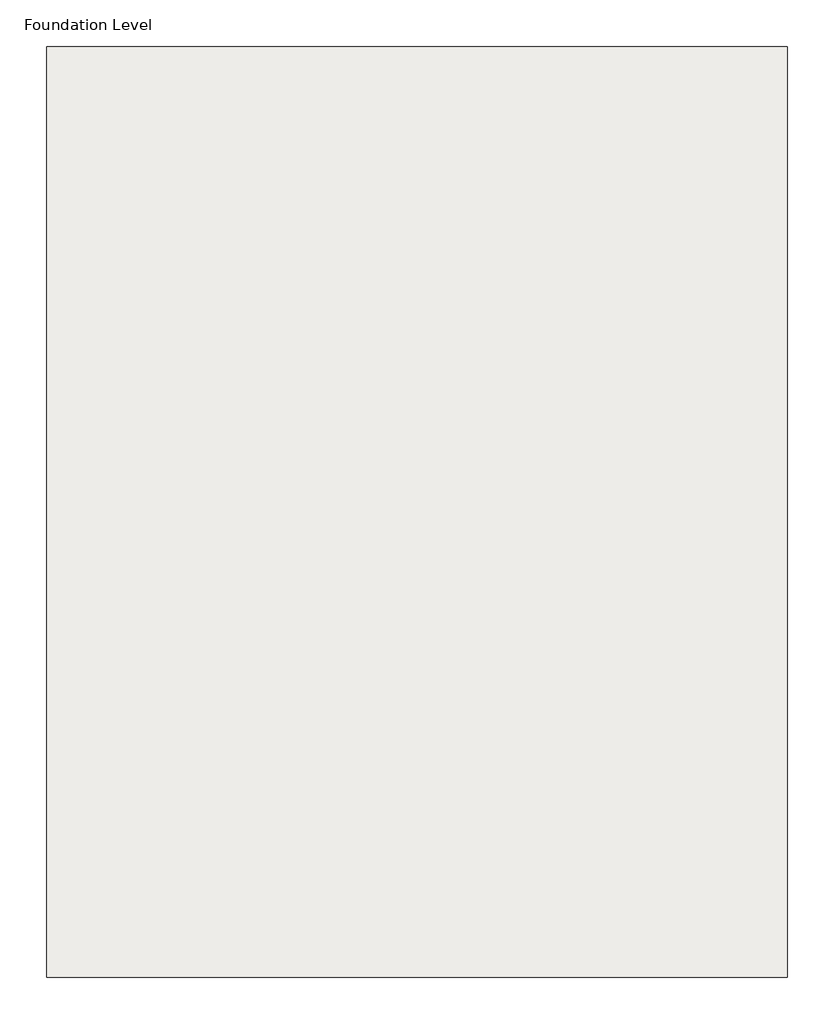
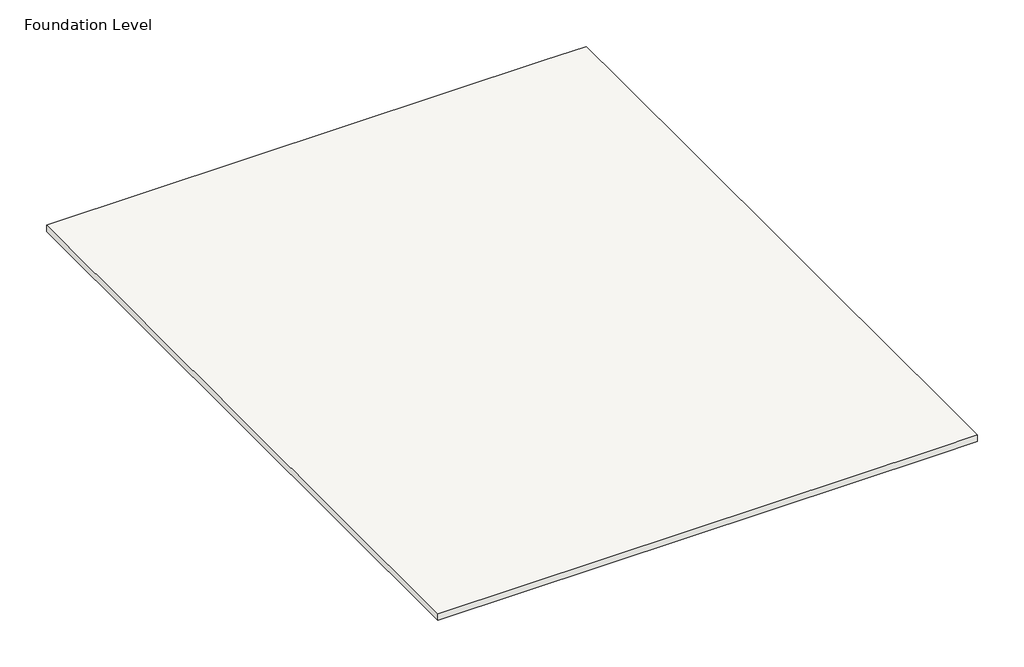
# One storey: 1 slab.
"""IFC4 building model written with IfcOpenShell, lengths in millimetres."""

from ifc_helpers import new_model, si_unit, origin, place, context, project, spatial, faceted_brep, element, save

model = new_model("IFC4")

# Units and contexts
model_context = context("Model", 3, world=origin())
ifc_project = project(units=[si_unit("LENGTHUNIT", "METRE", prefix="MILLI")], contexts=[model_context])

# Site, building, storey
site = spatial("IfcSite", under=ifc_project)
building = spatial("IfcBuilding", under=site)
storey = spatial("IfcBuildingStorey", under=building, Name="Foundation Level", Elevation=-1829.0)

# Slab
placement = place(None, origin())
element("IfcSlab", 1, ObjectType="150mm Foundation Slab", at=placement, inside=storey, context=model_context, shape_type="Brep", body=[
    faceted_brep([(-10208.9035319, 4562.1636035, -1979.0), (-10208.9035319, 3362.1636035, -1979.0), (-10208.9035319, -2762.8363965, -1979.0), (-10208.9035319, -4562.8363965, -1979.0), (-10208.9035319, -8858.8363965, -1979.0), (-10208.9035319, -10058.8363965, -1979.0), (-11108.9035319, -10058.8363965, -1979.0), (-21844.300634, -10058.8363965, -1979.0), (-21844.300634, 4562.1636035, -1979.0), (-11108.9035319, 4562.1636035, -1979.0), (-10208.9035319, 4562.1636035, -1829.0), (-11108.9035319, 4562.1636035, -1829.0), (-21844.300634, 4562.1636035, -1829.0), (-21844.300634, -10058.8363965, -1829.0), (-11108.9035319, -10058.8363965, -1829.0), (-10208.9035319, -10058.8363965, -1829.0), (-10208.9035319, -8858.8363965, -1829.0), (-10208.9035319, -4562.8363965, -1829.0), (-10208.9035319, -2762.8363965, -1829.0), (-10208.9035319, 3362.1636035, -1829.0)], [[[0, 1, 2, 3, 4, 5, 6, 7, 8, 9]], [[10, 11, 12, 13, 14, 15, 16, 17, 18, 19]], [[5, 4, 3, 2, 1, 0, 10, 19, 18, 17, 16, 15]], [[7, 6, 5, 15, 14, 13]], [[8, 7, 13, 12]], [[0, 9, 8, 12, 11, 10]]]),
])

save(model, "model.ifc")
